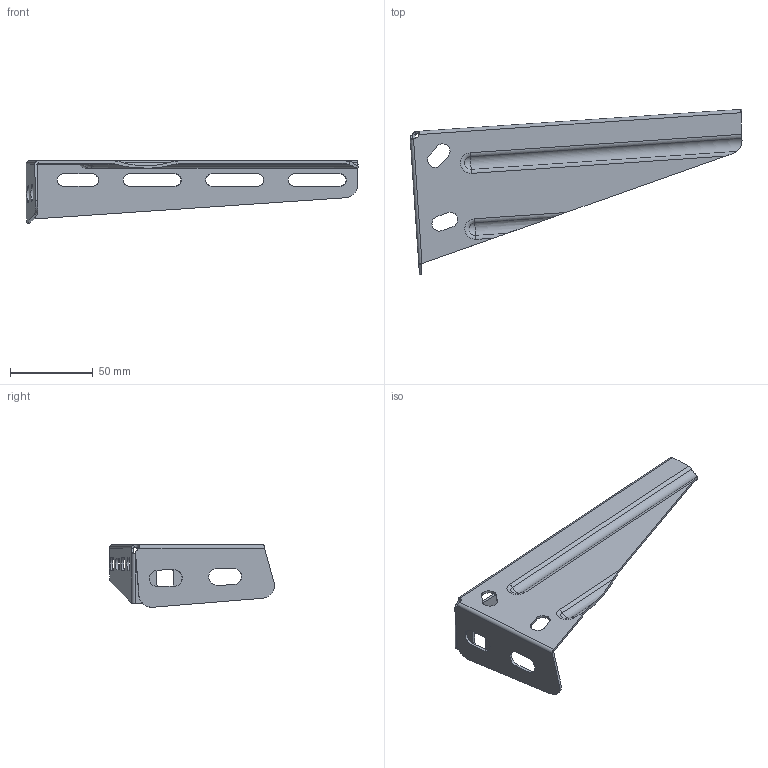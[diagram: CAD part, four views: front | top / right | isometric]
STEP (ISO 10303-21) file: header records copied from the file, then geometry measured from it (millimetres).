
FILE_DESCRIPTION (( 'STEP AP214' ), '1' );
FILE_NAME ('SCR150.STEP', '2023-06-28T09:45:43', ( '' ), ( '' ), 'SwSTEP 2.0', 'SolidWorks 2022', '' );
FILE_SCHEMA (( 'AUTOMOTIVE_DESIGN' ));
Length unit declared in the file: millimetre
Products named in the file (1): SCR150
Bounding box: 200.69 x 99.85 x 37.75 mm (x, y, z)
Volume: 27478 mm3; surface area: 38511 mm2
Topology: 1 solids, 1 shells, 108 faces, 286 edges, 180 vertices
Faces by surface type: cylinder 57, plane 37, bspline 6, sphere 4, torus 4
Entity records: 3629 total; most frequent: CARTESIAN_POINT 915, ORIENTED_EDGE 572, DIRECTION 548, EDGE_CURVE 286, AXIS2_PLACEMENT_3D 199, VERTEX_POINT 180, VECTOR 150, LINE 150
